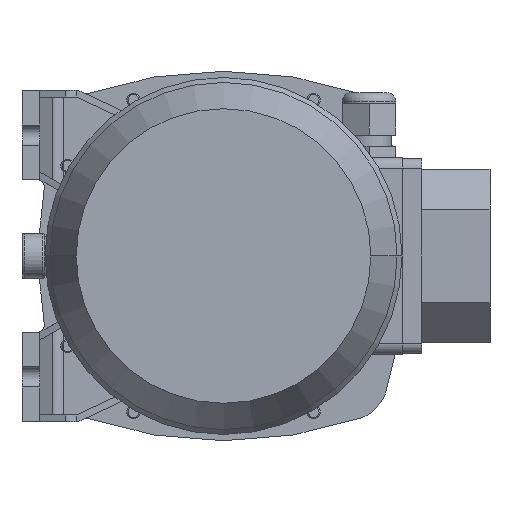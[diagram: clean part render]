
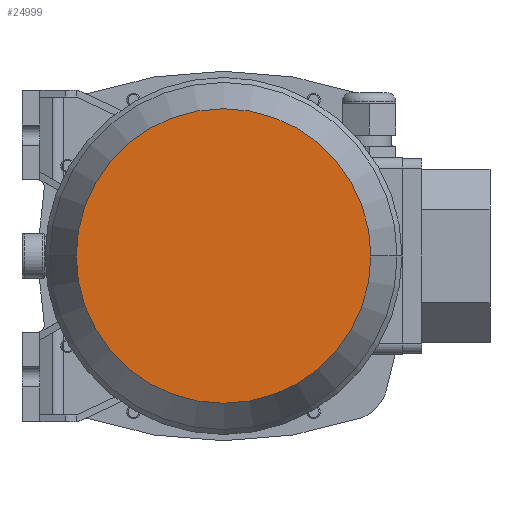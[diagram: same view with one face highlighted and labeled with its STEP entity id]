
A CAD part, front view. The second image highlights one B-rep face of the part: STEP entity #24999.
In plain terms, the highlighted planar face has unit normal (0, -1, 0) as drawn and (1, 0, 0) by its records, which use the part's own axes.
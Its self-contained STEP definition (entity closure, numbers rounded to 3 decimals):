
#18311=CARTESIAN_POINT('',(228.,0.,0.));
#18312=DIRECTION('',(-1.,0.,0.));
#18313=DIRECTION('',(0.,1.,0.));
#18314=AXIS2_PLACEMENT_3D('',#18311,#18312,#18313);
#18319=CARTESIAN_POINT('',(228.,0.,0.));
#18320=DIRECTION('',(1.,0.,0.));
#18321=DIRECTION('',(0.,1.,0.));
#18322=AXIS2_PLACEMENT_3D('',#18319,#18320,#18321);
#20292=CARTESIAN_POINT('',(228.,65.794,0.));
#20294=VERTEX_POINT('',#20292);
#20302=CARTESIAN_POINT('',(228.,-65.794,0.));
#20304=VERTEX_POINT('',#20302);
#24990=CARTESIAN_POINT('',(228.,0.,0.));
#24991=DIRECTION('',(1.,0.,0.));
#24992=DIRECTION('',(0.,-1.,0.));
#24993=AXIS2_PLACEMENT_3D('',#24990,#24991,#24992);
#24994=PLANE('',#24993);
#24995=ORIENTED_EDGE('',*,*,#24972,.T.);
#24996=ORIENTED_EDGE('',*,*,#24983,.F.);
#24997=EDGE_LOOP('',(#24995,#24996));
#24998=FACE_OUTER_BOUND('',#24997,.F.);
#18315=CIRCLE('',#18314,65.794);
#18323=CIRCLE('',#18322,65.794);
#24972=EDGE_CURVE('',#20294,#20304,#18315,.T.);
#24983=EDGE_CURVE('',#20294,#20304,#18323,.T.);
#24999=ADVANCED_FACE('',(#24998),#24994,.T.);
